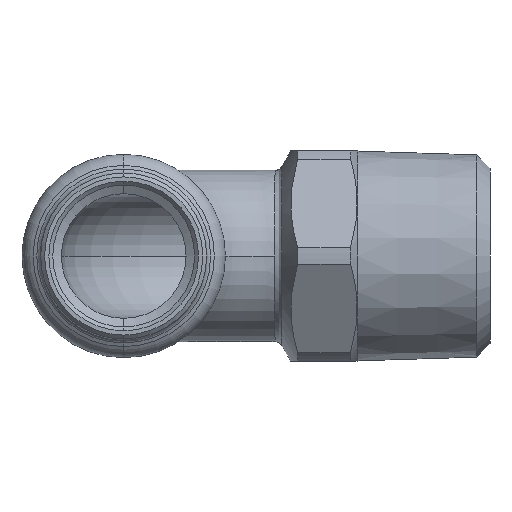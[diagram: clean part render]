
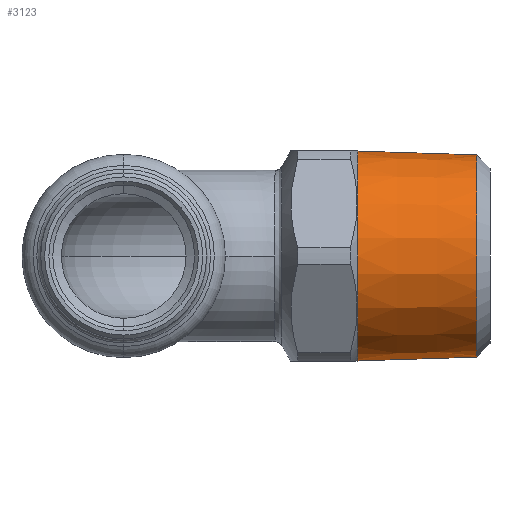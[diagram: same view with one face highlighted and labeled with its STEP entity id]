
A CAD part, front view. The second image highlights one B-rep face of the part: STEP entity #3123.
In plain terms, the highlighted conical face has half-angle 1.78 degrees and reference radius 12.979 mm.
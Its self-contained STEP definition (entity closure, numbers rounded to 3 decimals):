
#4 = LINE ( 'NONE', #76, #902 ) ;
#76 = CARTESIAN_POINT ( 'NONE',  ( 45.271, 47., 12.979 ) ) ;
#175 = AXIS2_PLACEMENT_3D ( 'NONE', #1936, #4116, #2256 ) ;
#282 = VECTOR ( 'NONE', #3143, 1000. ) ;
#358 = CIRCLE ( 'NONE', #175, 12.979 ) ;
#503 = ORIENTED_EDGE ( 'NONE', *, *, #3665, .F. ) ;
#705 = CARTESIAN_POINT ( 'NONE',  ( 45.271, 47., 0. ) ) ;
#777 = FACE_OUTER_BOUND ( 'NONE', #1142, .T. ) ;
#902 = VECTOR ( 'NONE', #2015, 1000. ) ;
#914 = CARTESIAN_POINT ( 'NONE',  ( 45.271, 47., -12.979 ) ) ;
#1018 = AXIS2_PLACEMENT_3D ( 'NONE', #705, #1674, #2948 ) ;
#1030 = VERTEX_POINT ( 'NONE', #1488 ) ;
#1142 = EDGE_LOOP ( 'NONE', ( #1998, #1274, #2952, #503 ) ) ;
#1274 = ORIENTED_EDGE ( 'NONE', *, *, #4080, .T. ) ;
#1488 = CARTESIAN_POINT ( 'NONE',  ( 30., 47., 13.454 ) ) ;
#1527 = CARTESIAN_POINT ( 'NONE',  ( 45.271, 47., -12.979 ) ) ;
#1608 = CARTESIAN_POINT ( 'NONE',  ( 30., 47., 0. ) ) ;
#1660 = EDGE_CURVE ( 'NONE', #1939, #3118, #2754, .T. ) ;
#1674 = DIRECTION ( 'NONE',  ( -1., 0., 0. ) ) ;
#1920 = DIRECTION ( 'NONE',  ( 0., 0., 1. ) ) ;
#1936 = CARTESIAN_POINT ( 'NONE',  ( 45.271, 47., 0. ) ) ;
#1939 = VERTEX_POINT ( 'NONE', #1527 ) ;
#1998 = ORIENTED_EDGE ( 'NONE', *, *, #1660, .F. ) ;
#2007 = VERTEX_POINT ( 'NONE', #3134 ) ;
#2015 = DIRECTION ( 'NONE',  ( -1., 0., 0.031 ) ) ;
#2195 = CONICAL_SURFACE ( 'NONE', #1018, 12.979, 0.031 ) ;
#2230 = EDGE_CURVE ( 'NONE', #2007, #1030, #4, .T. ) ;
#2256 = DIRECTION ( 'NONE',  ( 0., 0., 1. ) ) ;
#2754 = LINE ( 'NONE', #914, #282 ) ;
#2948 = DIRECTION ( 'NONE',  ( 0., 0., 1. ) ) ;
#2952 = ORIENTED_EDGE ( 'NONE', *, *, #2230, .T. ) ;
#2970 = CIRCLE ( 'NONE', #3955, 13.454 ) ;
#3118 = VERTEX_POINT ( 'NONE', #3856 ) ;
#3123 = ADVANCED_FACE ( 'NONE', ( #777 ), #2195, .T. ) ;
#3134 = CARTESIAN_POINT ( 'NONE',  ( 45.271, 47., 12.979 ) ) ;
#3143 = DIRECTION ( 'NONE',  ( -1., 0., -0.031 ) ) ;
#3665 = EDGE_CURVE ( 'NONE', #3118, #1030, #2970, .T. ) ;
#3789 = DIRECTION ( 'NONE',  ( -1., 0., 0. ) ) ;
#3856 = CARTESIAN_POINT ( 'NONE',  ( 30., 47., -13.454 ) ) ;
#3955 = AXIS2_PLACEMENT_3D ( 'NONE', #1608, #3789, #1920 ) ;
#4080 = EDGE_CURVE ( 'NONE', #1939, #2007, #358, .T. ) ;
#4116 = DIRECTION ( 'NONE',  ( -1., 0., 0. ) ) ;
